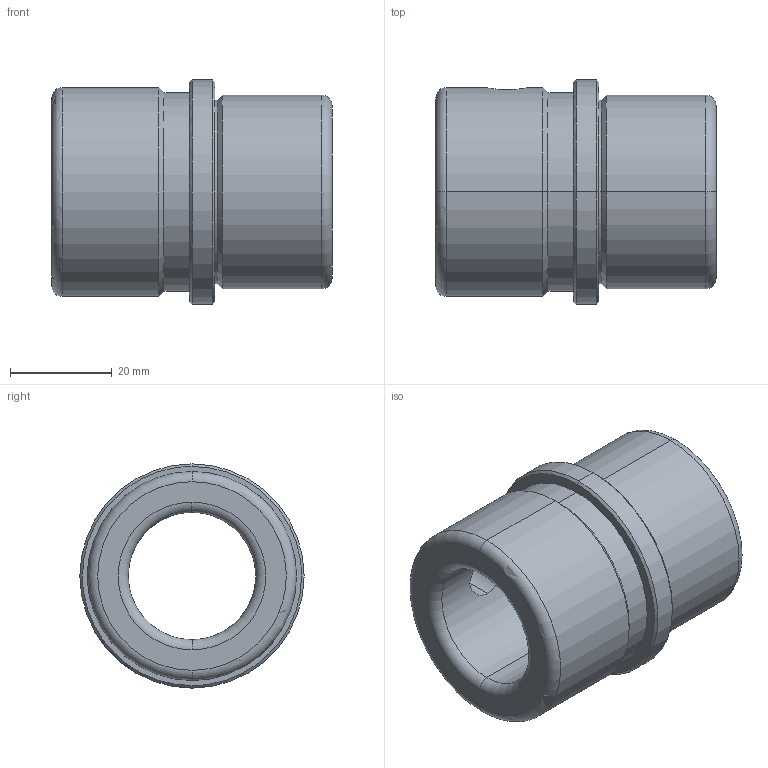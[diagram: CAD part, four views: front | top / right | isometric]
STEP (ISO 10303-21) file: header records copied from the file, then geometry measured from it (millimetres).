
FILE_DESCRIPTION(('CATIA V5 STEP Exchange'),'2;1');
FILE_NAME('C:\Users\Utente\Desktop\IO LAVORO\3D X SITO CF\X SITO\FAMO\FAMO-SF1-C25 x 55.stp','2021-01-06T17:09:47+00:00',('none'),('none'),'CATIA Version 5 Release 20 GA (IN-10)','CATIA V5 STEP AP203','none');
FILE_SCHEMA(('CONFIG_CONTROL_DESIGN'));
Length unit declared in the file: millimetre
Products named in the file (1): FAMO-SF1-C25 x 55
Bounding box: 55 x 44 x 44 mm (x, y, z)
Volume: 40482.5 mm3; surface area: 13433.8 mm2
Topology: 1 solids, 1 shells, 38 faces, 127 edges, 94 vertices
Faces by surface type: cylinder 15, cone 10, torus 8, plane 5
Entity records: 1646 total; most frequent: CARTESIAN_POINT 503, ORIENTED_EDGE 254, DIRECTION 182, EDGE_CURVE 127, AXIS2_PLACEMENT_3D 121, VERTEX_POINT 94, CIRCLE 82, EDGE_LOOP 45
